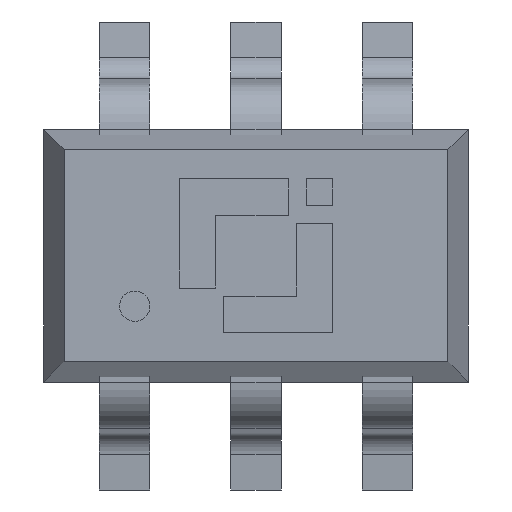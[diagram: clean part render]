
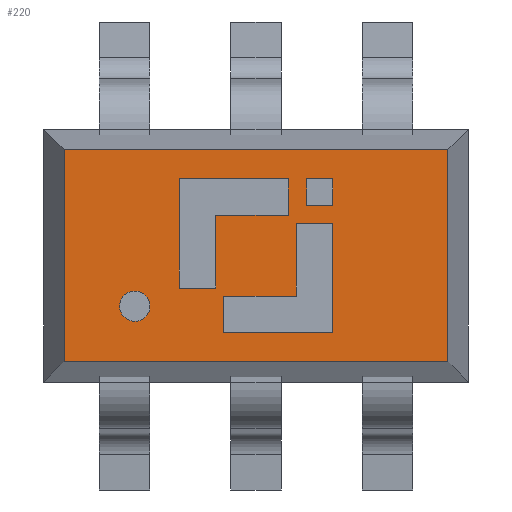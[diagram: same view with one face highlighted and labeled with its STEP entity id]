
A CAD part, top view. The second image highlights one B-rep face of the part: STEP entity #220.
In plain terms, the highlighted planar face has unit normal (0, 0, 1).
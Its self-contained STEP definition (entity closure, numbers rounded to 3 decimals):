
#27=CARTESIAN_POINT('',(0.,0.,0.95));
#28=DIRECTION('',(0.,0.,1.));
#29=DIRECTION('',(1.,0.,0.));
#30=AXIS2_PLACEMENT_3D('',#27,#28,#29);
#31=PLANE('',#30);
#32=CARTESIAN_POINT('',(0.25,0.25,0.95));
#33=VERTEX_POINT('',#32);
#34=CARTESIAN_POINT('',(0.38,0.25,0.95));
#35=VERTEX_POINT('',#34);
#36=CARTESIAN_POINT('',(0.25,0.25,0.95));
#37=DIRECTION('',(1.,0.,-0.));
#38=VECTOR('',#37,0.13);
#39=LINE('',#36,#38);
#40=EDGE_CURVE('',#33,#35,#39,.T.);
#41=ORIENTED_EDGE('',*,*,#40,.F.);
#42=CARTESIAN_POINT('',(0.25,0.38,0.95));
#43=VERTEX_POINT('',#42);
#44=CARTESIAN_POINT('',(0.25,0.38,0.95));
#45=DIRECTION('',(0.,-1.,0.));
#46=VECTOR('',#45,0.13);
#47=LINE('',#44,#46);
#48=EDGE_CURVE('',#43,#33,#47,.T.);
#49=ORIENTED_EDGE('',*,*,#48,.F.);
#50=CARTESIAN_POINT('',(0.38,0.38,0.95));
#51=VERTEX_POINT('',#50);
#52=CARTESIAN_POINT('',(0.38,0.38,0.95));
#53=DIRECTION('',(-1.,0.,0.));
#54=VECTOR('',#53,0.13);
#55=LINE('',#52,#54);
#56=EDGE_CURVE('',#51,#43,#55,.T.);
#57=ORIENTED_EDGE('',*,*,#56,.F.);
#58=CARTESIAN_POINT('',(0.38,0.25,0.95));
#59=DIRECTION('',(0.,1.,0.));
#60=VECTOR('',#59,0.13);
#61=LINE('',#58,#60);
#62=EDGE_CURVE('',#35,#51,#61,.T.);
#63=ORIENTED_EDGE('',*,*,#62,.F.);
#64=EDGE_LOOP('',(#41,#49,#57,#63));
#65=FACE_BOUND('',#64,.T.);
#66=CARTESIAN_POINT('',(-0.577,-0.179,0.95));
#67=VERTEX_POINT('',#66);
#68=CARTESIAN_POINT('',(-0.525,-0.25,0.95));
#69=VERTEX_POINT('',#68);
#70=CARTESIAN_POINT('',(-0.6,-0.25,0.95));
#71=DIRECTION('',(0.,0.,1.));
#72=DIRECTION('',(1.,0.,-0.));
#73=AXIS2_PLACEMENT_3D('',#70,#71,#72);
#74=CIRCLE('',#73,0.075);
#75=EDGE_CURVE('',#67,#69,#74,.T.);
#76=ORIENTED_EDGE('',*,*,#75,.F.);
#77=CARTESIAN_POINT('',(-0.6,-0.25,0.95));
#78=DIRECTION('',(0.,0.,1.));
#79=DIRECTION('',(1.,0.,-0.));
#80=AXIS2_PLACEMENT_3D('',#77,#78,#79);
#81=CIRCLE('',#80,0.075);
#82=EDGE_CURVE('',#69,#67,#81,.T.);
#83=ORIENTED_EDGE('',*,*,#82,.F.);
#84=EDGE_LOOP('',(#76,#83));
#85=FACE_BOUND('',#84,.T.);
#86=CARTESIAN_POINT('',(0.95,0.525,0.95));
#87=VERTEX_POINT('',#86);
#88=CARTESIAN_POINT('',(-0.95,0.525,0.95));
#89=VERTEX_POINT('',#88);
#90=CARTESIAN_POINT('',(0.95,0.525,0.95));
#91=DIRECTION('',(-1.,-0.,0.));
#92=VECTOR('',#91,1.9);
#93=LINE('',#90,#92);
#94=EDGE_CURVE('',#87,#89,#93,.T.);
#95=ORIENTED_EDGE('',*,*,#94,.T.);
#96=CARTESIAN_POINT('',(-0.95,-0.525,0.95));
#97=VERTEX_POINT('',#96);
#98=CARTESIAN_POINT('',(-0.95,0.525,0.95));
#99=DIRECTION('',(0.,-1.,0.));
#100=VECTOR('',#99,1.05);
#101=LINE('',#98,#100);
#102=EDGE_CURVE('',#89,#97,#101,.T.);
#103=ORIENTED_EDGE('',*,*,#102,.T.);
#104=CARTESIAN_POINT('',(0.95,-0.525,0.95));
#105=VERTEX_POINT('',#104);
#106=CARTESIAN_POINT('',(-0.95,-0.525,0.95));
#107=DIRECTION('',(1.,0.,0.));
#108=VECTOR('',#107,1.9);
#109=LINE('',#106,#108);
#110=EDGE_CURVE('',#97,#105,#109,.T.);
#111=ORIENTED_EDGE('',*,*,#110,.T.);
#112=CARTESIAN_POINT('',(0.95,-0.525,0.95));
#113=DIRECTION('',(-0.,1.,0.));
#114=VECTOR('',#113,1.05);
#115=LINE('',#112,#114);
#116=EDGE_CURVE('',#105,#87,#115,.T.);
#117=ORIENTED_EDGE('',*,*,#116,.T.);
#118=EDGE_LOOP('',(#95,#103,#111,#117));
#119=FACE_BOUND('',#118,.T.);
#120=CARTESIAN_POINT('',(-0.38,0.38,0.95));
#121=VERTEX_POINT('',#120);
#122=CARTESIAN_POINT('',(0.16,0.38,0.95));
#123=VERTEX_POINT('',#122);
#124=CARTESIAN_POINT('',(-0.38,0.38,0.95));
#125=DIRECTION('',(1.,0.,-0.));
#126=VECTOR('',#125,0.54);
#127=LINE('',#124,#126);
#128=EDGE_CURVE('',#121,#123,#127,.T.);
#129=ORIENTED_EDGE('',*,*,#128,.T.);
#130=CARTESIAN_POINT('',(0.16,0.2,0.95));
#131=VERTEX_POINT('',#130);
#132=CARTESIAN_POINT('',(0.16,0.38,0.95));
#133=DIRECTION('',(0.,-1.,0.));
#134=VECTOR('',#133,0.18);
#135=LINE('',#132,#134);
#136=EDGE_CURVE('',#123,#131,#135,.T.);
#137=ORIENTED_EDGE('',*,*,#136,.T.);
#138=CARTESIAN_POINT('',(-0.2,0.2,0.95));
#139=VERTEX_POINT('',#138);
#140=CARTESIAN_POINT('',(0.16,0.2,0.95));
#141=DIRECTION('',(-1.,0.,0.));
#142=VECTOR('',#141,0.36);
#143=LINE('',#140,#142);
#144=EDGE_CURVE('',#131,#139,#143,.T.);
#145=ORIENTED_EDGE('',*,*,#144,.T.);
#146=CARTESIAN_POINT('',(-0.2,-0.16,0.95));
#147=VERTEX_POINT('',#146);
#148=CARTESIAN_POINT('',(-0.2,0.2,0.95));
#149=DIRECTION('',(0.,-1.,0.));
#150=VECTOR('',#149,0.36);
#151=LINE('',#148,#150);
#152=EDGE_CURVE('',#139,#147,#151,.T.);
#153=ORIENTED_EDGE('',*,*,#152,.T.);
#154=CARTESIAN_POINT('',(-0.38,-0.16,0.95));
#155=VERTEX_POINT('',#154);
#156=CARTESIAN_POINT('',(-0.2,-0.16,0.95));
#157=DIRECTION('',(-1.,0.,0.));
#158=VECTOR('',#157,0.18);
#159=LINE('',#156,#158);
#160=EDGE_CURVE('',#147,#155,#159,.T.);
#161=ORIENTED_EDGE('',*,*,#160,.T.);
#162=CARTESIAN_POINT('',(-0.38,-0.16,0.95));
#163=DIRECTION('',(0.,1.,0.));
#164=VECTOR('',#163,0.54);
#165=LINE('',#162,#164);
#166=EDGE_CURVE('',#155,#121,#165,.T.);
#167=ORIENTED_EDGE('',*,*,#166,.T.);
#168=EDGE_LOOP('',(#129,#137,#145,#153,#161,#167));
#169=FACE_BOUND('',#168,.T.);
#170=CARTESIAN_POINT('',(0.2,0.16,0.95));
#171=VERTEX_POINT('',#170);
#172=CARTESIAN_POINT('',(0.38,0.16,0.95));
#173=VERTEX_POINT('',#172);
#174=CARTESIAN_POINT('',(0.2,0.16,0.95));
#175=DIRECTION('',(1.,-0.,0.));
#176=VECTOR('',#175,0.18);
#177=LINE('',#174,#176);
#178=EDGE_CURVE('',#171,#173,#177,.T.);
#179=ORIENTED_EDGE('',*,*,#178,.T.);
#180=CARTESIAN_POINT('',(0.38,-0.38,0.95));
#181=VERTEX_POINT('',#180);
#182=CARTESIAN_POINT('',(0.38,0.16,0.95));
#183=DIRECTION('',(0.,-1.,0.));
#184=VECTOR('',#183,0.54);
#185=LINE('',#182,#184);
#186=EDGE_CURVE('',#173,#181,#185,.T.);
#187=ORIENTED_EDGE('',*,*,#186,.T.);
#188=CARTESIAN_POINT('',(-0.16,-0.38,0.95));
#189=VERTEX_POINT('',#188);
#190=CARTESIAN_POINT('',(0.38,-0.38,0.95));
#191=DIRECTION('',(-1.,0.,0.));
#192=VECTOR('',#191,0.54);
#193=LINE('',#190,#192);
#194=EDGE_CURVE('',#181,#189,#193,.T.);
#195=ORIENTED_EDGE('',*,*,#194,.T.);
#196=CARTESIAN_POINT('',(-0.16,-0.2,0.95));
#197=VERTEX_POINT('',#196);
#198=CARTESIAN_POINT('',(-0.16,-0.38,0.95));
#199=DIRECTION('',(0.,1.,0.));
#200=VECTOR('',#199,0.18);
#201=LINE('',#198,#200);
#202=EDGE_CURVE('',#189,#197,#201,.T.);
#203=ORIENTED_EDGE('',*,*,#202,.T.);
#204=CARTESIAN_POINT('',(0.2,-0.2,0.95));
#205=VERTEX_POINT('',#204);
#206=CARTESIAN_POINT('',(-0.16,-0.2,0.95));
#207=DIRECTION('',(1.,0.,-0.));
#208=VECTOR('',#207,0.36);
#209=LINE('',#206,#208);
#210=EDGE_CURVE('',#197,#205,#209,.T.);
#211=ORIENTED_EDGE('',*,*,#210,.T.);
#212=CARTESIAN_POINT('',(0.2,-0.2,0.95));
#213=DIRECTION('',(0.,1.,0.));
#214=VECTOR('',#213,0.36);
#215=LINE('',#212,#214);
#216=EDGE_CURVE('',#205,#171,#215,.T.);
#217=ORIENTED_EDGE('',*,*,#216,.T.);
#218=EDGE_LOOP('',(#179,#187,#195,#203,#211,#217));
#219=FACE_BOUND('',#218,.T.);
#220=ADVANCED_FACE('',(#65,#85,#119,#169,#219),#31,.T.);
